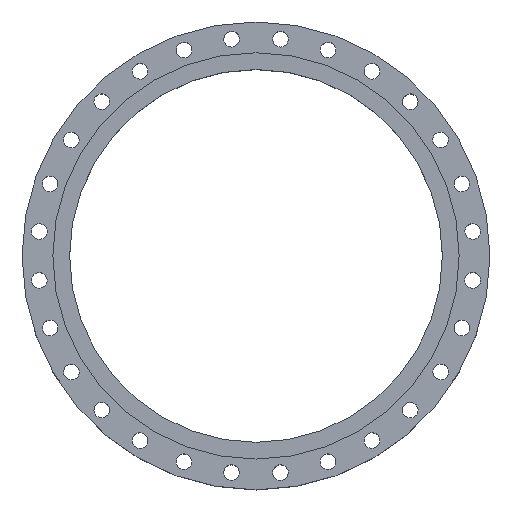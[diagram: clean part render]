
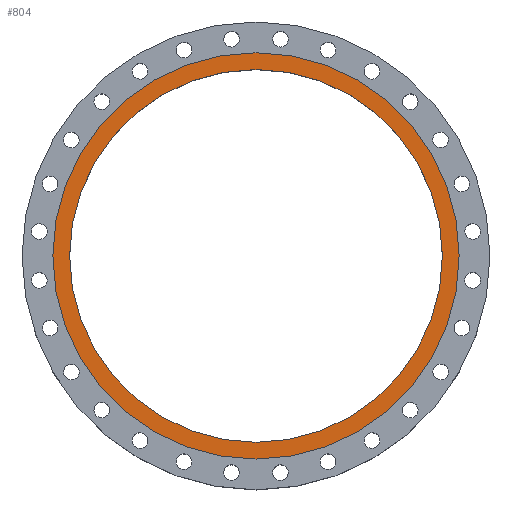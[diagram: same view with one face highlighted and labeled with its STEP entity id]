
A CAD part, top view. The second image highlights one B-rep face of the part: STEP entity #804.
In plain terms, the highlighted planar face has unit normal (0, 0, 1).
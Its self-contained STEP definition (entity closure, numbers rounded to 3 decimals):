
#804=ADVANCED_FACE('',(#1819,#1821),#1823,.T.);
#1819=FACE_BOUND('',#1820,.T.);
#1820=EDGE_LOOP('',(#2212));
#1821=FACE_BOUND('',#1822,.T.);
#1822=EDGE_LOOP('',(#2213));
#1823=PLANE('',#1824);
#1824=AXIS2_PLACEMENT_3D('',#1825,#1826,#1827);
#1825=CARTESIAN_POINT('',(0.,0.,132.5));
#1826=DIRECTION('',(0.,0.,1.));
#1827=DIRECTION('',(0.,1.,0.));
#2212=ORIENTED_EDGE('',*,*,#2390,.F.);
#2213=ORIENTED_EDGE('',*,*,#2392,.T.);
#2390=EDGE_CURVE('',#2712,#2712,#2713,.T.);
#2392=EDGE_CURVE('',#2716,#2716,#2717,.T.);
#2712=VERTEX_POINT('',#4519);
#2713=CIRCLE('',#4520,545.);
#2716=VERTEX_POINT('',#4529);
#2717=CIRCLE('',#4530,500.);
#4519=CARTESIAN_POINT('',(0.,545.,132.5));
#4520=AXIS2_PLACEMENT_3D('',#4521,#4522,#4523);
#4521=CARTESIAN_POINT('',(0.,0.,132.5));
#4522=DIRECTION('',(0.,0.,-1.));
#4523=DIRECTION('',(0.,1.,0.));
#4529=CARTESIAN_POINT('',(0.,500.,132.5));
#4530=AXIS2_PLACEMENT_3D('',#4531,#4532,#4533);
#4531=CARTESIAN_POINT('',(0.,0.,132.5));
#4532=DIRECTION('',(0.,0.,-1.));
#4533=DIRECTION('',(0.,1.,0.));
